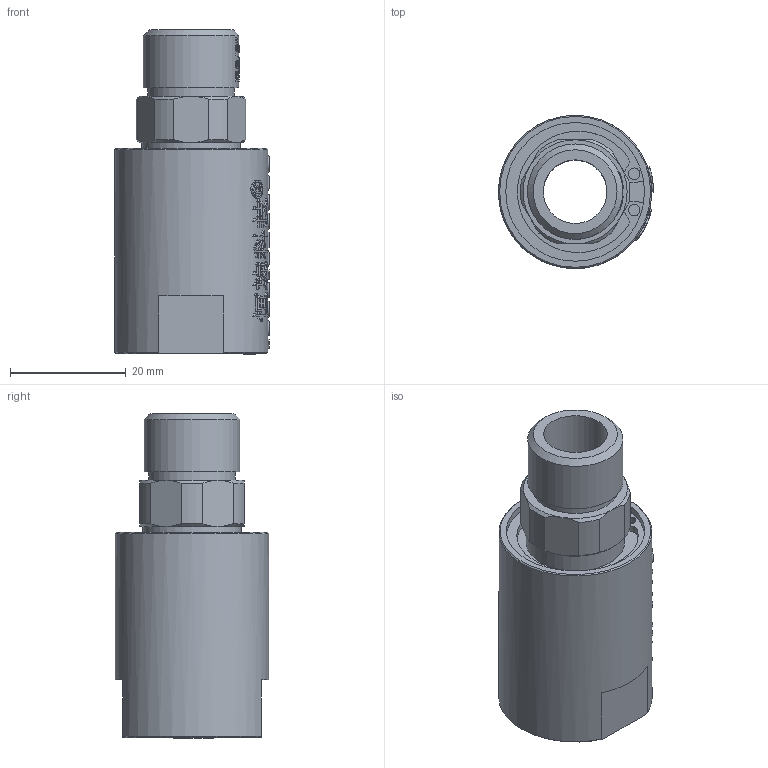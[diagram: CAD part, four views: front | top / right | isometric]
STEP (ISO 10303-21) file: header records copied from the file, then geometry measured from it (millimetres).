
FILE_DESCRIPTION(/* description */ (''),/* implementation_level */ '2;1');
FILE_NAME(/* name */ 'HQK0103(RH)-3D模型.stp',/* time_stamp */ '2025-07-08T15:36:52+08:00',/* author */ (''),/* organization */ (''),/* preprocessor_version */ 'ST-DEVELOPER v16.7',/* originating_system */ 'SIEMENS PLM Software NX 12.0',/* authorisation */ '');
FILE_SCHEMA (('AUTOMOTIVE_DESIGN { 1 0 10303 214 3 1 1 1 }'));
Length unit declared in the file: millimetre
Products named in the file (1): Admi1E18C0B724k2
Bounding box: 26.8 x 26.5 x 56.1 mm (x, y, z)
Volume: 17411.3 mm3; surface area: 7711.1 mm2
Topology: 1 solids, 1 shells, 941 faces, 2612 edges, 1737 vertices
Faces by surface type: extrusion 540, plane 300, bspline 44, cylinder 40, cone 17
Full cylindrical faces by diameter (mm): 2 x2, 11 x1, 15 x2, 16.5 x1, 17 x1, 24 x1, 25.2 x1, 26.5 x1
Entity records: 38501 total; most frequent: CARTESIAN_POINT 19089, ORIENTED_EDGE 5142, B_SPLINE_CURVE_WITH_KNOTS 2720, EDGE_CURVE 2571, VERTEX_POINT 1717, DIRECTION 1698, EDGE_LOOP 1028, ADVANCED_FACE 941
